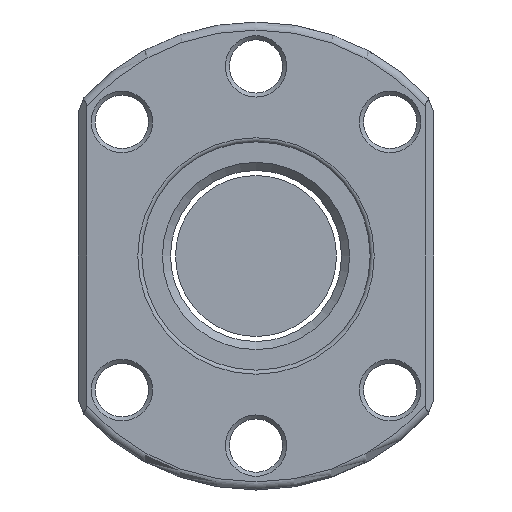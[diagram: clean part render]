
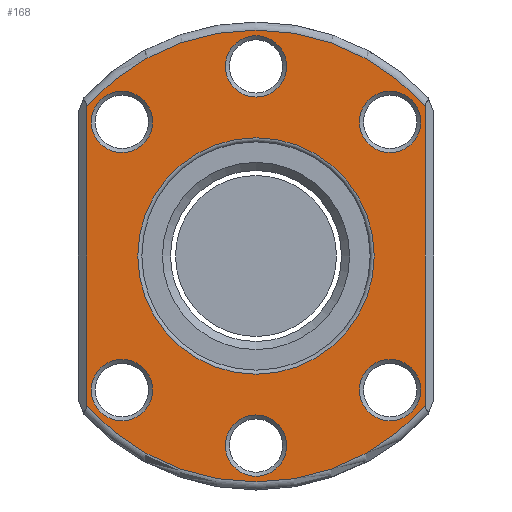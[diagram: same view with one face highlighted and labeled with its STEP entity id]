
A CAD part, front view. The second image highlights one B-rep face of the part: STEP entity #168.
In plain terms, the highlighted planar face has unit normal (0, -1, 0).
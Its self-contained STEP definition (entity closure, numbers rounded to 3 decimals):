
#62=LINE('',#1150,#86);
#63=LINE('',#1154,#87);
#86=VECTOR('',#930,1.);
#87=VECTOR('',#933,1.);
#132=PLANE('',#806);
#168=ADVANCED_FACE('',(#238,#239,#240,#241,#242,#243,#244,#245),#132,.T.);
#238=FACE_BOUND('',#318,.T.);
#239=FACE_BOUND('',#319,.T.);
#240=FACE_BOUND('',#320,.T.);
#241=FACE_BOUND('',#321,.T.);
#242=FACE_BOUND('',#322,.T.);
#243=FACE_BOUND('',#323,.T.);
#244=FACE_BOUND('',#324,.T.);
#245=FACE_BOUND('',#325,.T.);
#318=EDGE_LOOP('',(#417));
#319=EDGE_LOOP('',(#418));
#320=EDGE_LOOP('',(#419));
#321=EDGE_LOOP('',(#420));
#322=EDGE_LOOP('',(#421));
#323=EDGE_LOOP('',(#422));
#324=EDGE_LOOP('',(#423));
#325=EDGE_LOOP('',(#424,#425,#426,#427));
#417=ORIENTED_EDGE('',*,*,#660,.T.);
#418=ORIENTED_EDGE('',*,*,#661,.T.);
#419=ORIENTED_EDGE('',*,*,#662,.T.);
#420=ORIENTED_EDGE('',*,*,#663,.T.);
#421=ORIENTED_EDGE('',*,*,#664,.T.);
#422=ORIENTED_EDGE('',*,*,#665,.T.);
#423=ORIENTED_EDGE('',*,*,#666,.T.);
#424=ORIENTED_EDGE('',*,*,#667,.T.);
#425=ORIENTED_EDGE('',*,*,#668,.T.);
#426=ORIENTED_EDGE('',*,*,#669,.T.);
#427=ORIENTED_EDGE('',*,*,#670,.T.);
#589=VERTEX_POINT('',#1134);
#590=VERTEX_POINT('',#1136);
#591=VERTEX_POINT('',#1138);
#592=VERTEX_POINT('',#1140);
#593=VERTEX_POINT('',#1142);
#594=VERTEX_POINT('',#1144);
#595=VERTEX_POINT('',#1146);
#596=VERTEX_POINT('',#1148);
#597=VERTEX_POINT('',#1149);
#598=VERTEX_POINT('',#1151);
#599=VERTEX_POINT('',#1153);
#660=EDGE_CURVE('',#589,#589,#745,.T.);
#661=EDGE_CURVE('',#590,#590,#746,.T.);
#662=EDGE_CURVE('',#591,#591,#747,.T.);
#663=EDGE_CURVE('',#592,#592,#748,.T.);
#664=EDGE_CURVE('',#593,#593,#749,.T.);
#665=EDGE_CURVE('',#594,#594,#750,.T.);
#666=EDGE_CURVE('',#595,#595,#751,.T.);
#667=EDGE_CURVE('',#596,#597,#752,.T.);
#668=EDGE_CURVE('',#597,#598,#62,.T.);
#669=EDGE_CURVE('',#598,#599,#753,.T.);
#670=EDGE_CURVE('',#599,#596,#63,.T.);
#745=CIRCLE('',#797,3.8);
#746=CIRCLE('',#798,3.8);
#747=CIRCLE('',#799,3.8);
#748=CIRCLE('',#800,3.8);
#749=CIRCLE('',#801,3.8);
#750=CIRCLE('',#802,3.8);
#751=CIRCLE('',#803,14.65);
#752=CIRCLE('',#804,28.);
#753=CIRCLE('',#805,28.);
#797=AXIS2_PLACEMENT_3D('',#1133,#914,#915);
#798=AXIS2_PLACEMENT_3D('',#1135,#916,#917);
#799=AXIS2_PLACEMENT_3D('',#1137,#918,#919);
#800=AXIS2_PLACEMENT_3D('',#1139,#920,#921);
#801=AXIS2_PLACEMENT_3D('',#1141,#922,#923);
#802=AXIS2_PLACEMENT_3D('',#1143,#924,#925);
#803=AXIS2_PLACEMENT_3D('',#1145,#926,#927);
#804=AXIS2_PLACEMENT_3D('',#1147,#928,#929);
#805=AXIS2_PLACEMENT_3D('',#1152,#931,#932);
#806=AXIS2_PLACEMENT_3D('',#1155,#934,#935);
#914=DIRECTION('',(0.,1.,0.));
#915=DIRECTION('',(0.,0.,-1.));
#916=DIRECTION('',(0.,1.,0.));
#917=DIRECTION('',(0.,0.,-1.));
#918=DIRECTION('',(0.,1.,0.));
#919=DIRECTION('',(0.,0.,-1.));
#920=DIRECTION('',(0.,1.,0.));
#921=DIRECTION('',(0.,0.,-1.));
#922=DIRECTION('',(0.,1.,0.));
#923=DIRECTION('',(0.,0.,-1.));
#924=DIRECTION('',(0.,1.,0.));
#925=DIRECTION('',(0.,0.,-1.));
#926=DIRECTION('',(0.,1.,0.));
#927=DIRECTION('',(0.,0.,-1.));
#928=DIRECTION('',(0.,-1.,0.));
#929=DIRECTION('',(0.,0.,-1.));
#930=DIRECTION('',(0.,0.,-1.));
#931=DIRECTION('',(0.,-1.,0.));
#932=DIRECTION('',(0.,0.,-1.));
#933=DIRECTION('',(0.,0.,1.));
#934=DIRECTION('',(0.,-1.,0.));
#935=DIRECTION('',(0.,0.,-1.));
#1133=CARTESIAN_POINT('',(-16.617,0.,16.617));
#1134=CARTESIAN_POINT('',(-16.617,0.,12.817));
#1135=CARTESIAN_POINT('',(16.617,0.,-16.617));
#1136=CARTESIAN_POINT('',(16.617,0.,-20.417));
#1137=CARTESIAN_POINT('',(-16.617,0.,-16.617));
#1138=CARTESIAN_POINT('',(-16.617,0.,-20.417));
#1139=CARTESIAN_POINT('',(0.,0.,-23.5));
#1140=CARTESIAN_POINT('',(0.,0.,-27.3));
#1141=CARTESIAN_POINT('',(16.617,0.,16.617));
#1142=CARTESIAN_POINT('',(16.617,0.,12.817));
#1143=CARTESIAN_POINT('',(0.,0.,23.5));
#1144=CARTESIAN_POINT('',(0.,0.,19.7));
#1145=CARTESIAN_POINT('',(0.,0.,0.));
#1146=CARTESIAN_POINT('',(0.,0.,-14.65));
#1147=CARTESIAN_POINT('',(0.,0.,0.));
#1148=CARTESIAN_POINT('',(21.,0.,18.52));
#1149=CARTESIAN_POINT('',(-21.,0.,18.52));
#1150=CARTESIAN_POINT('',(-21.,0.,-17.321));
#1151=CARTESIAN_POINT('',(-21.,0.,-18.52));
#1152=CARTESIAN_POINT('',(0.,0.,0.));
#1153=CARTESIAN_POINT('',(21.,0.,-18.52));
#1154=CARTESIAN_POINT('',(21.,0.,17.321));
#1155=CARTESIAN_POINT('',(0.,0.,0.));
